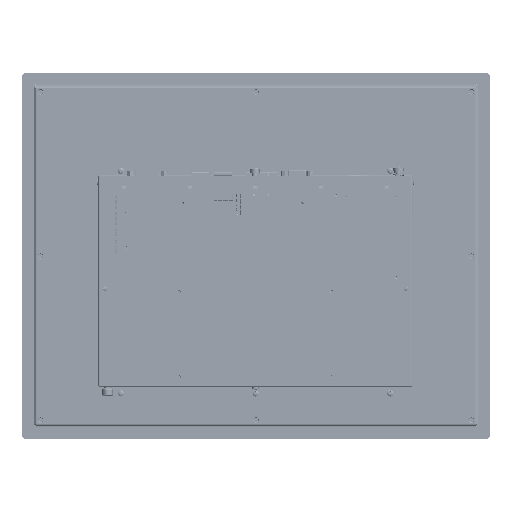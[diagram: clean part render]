
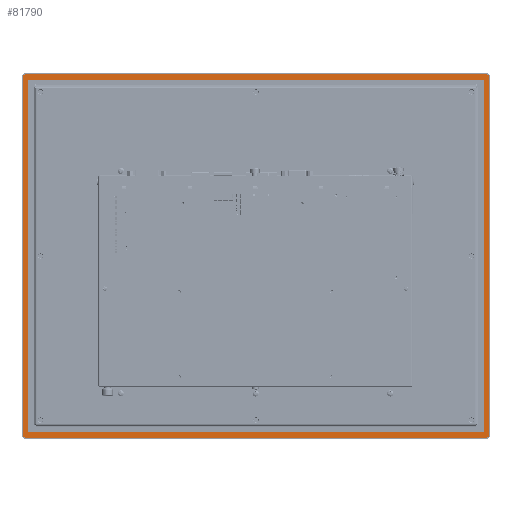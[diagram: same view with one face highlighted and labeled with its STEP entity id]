
A CAD part, front view. The second image highlights one B-rep face of the part: STEP entity #81790.
In plain terms, the highlighted planar face has unit normal (0, -1, 0).
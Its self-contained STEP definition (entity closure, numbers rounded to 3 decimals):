
#202 = VERTEX_POINT ( 'NONE', #469987 ) ;
#5962 = CARTESIAN_POINT ( 'NONE',  ( -224.5, 0.5, -164.5 ) ) ;
#11230 = ORIENTED_EDGE ( 'NONE', *, *, #61647, .F. ) ;
#14660 = CIRCLE ( 'NONE', #641236, 1. ) ;
#18853 = DIRECTION ( 'NONE',  ( 0., 0., 1. ) ) ;
#21385 = DIRECTION ( 'NONE',  ( 0., -1., 0. ) ) ;
#30321 = EDGE_CURVE ( 'NONE', #460075, #148442, #228694, .T. ) ;
#30902 = LINE ( 'NONE', #388912, #261779 ) ;
#36565 = DIRECTION ( 'NONE',  ( 0., 1., 0. ) ) ;
#40188 = CARTESIAN_POINT ( 'NONE',  ( -221.5, 0.5, 180.5 ) ) ;
#45124 = ORIENTED_EDGE ( 'NONE', *, *, #140049, .F. ) ;
#45732 = DIRECTION ( 'NONE',  ( 0., 0., 1. ) ) ;
#55964 = VERTEX_POINT ( 'NONE', #730111 ) ;
#57141 = ORIENTED_EDGE ( 'NONE', *, *, #730697, .F. ) ;
#61647 = EDGE_CURVE ( 'NONE', #538994, #763101, #637773, .T. ) ;
#65102 = EDGE_CURVE ( 'NONE', #107957, #136683, #463092, .T. ) ;
#81790 = ADVANCED_FACE ( 'NONE', ( #594721, #169934 ), #350445, .T. ) ;
#107957 = VERTEX_POINT ( 'NONE', #720496 ) ;
#110672 = CARTESIAN_POINT ( 'NONE',  ( 0., 0.5, 0. ) ) ;
#112410 = DIRECTION ( 'NONE',  ( -1., 0., 0. ) ) ;
#114497 = DIRECTION ( 'NONE',  ( 0., 1., 0. ) ) ;
#125555 = LINE ( 'NONE', #558747, #614832 ) ;
#132472 = CARTESIAN_POINT ( 'NONE',  ( 226.5, 0.5, 184.5 ) ) ;
#136683 = VERTEX_POINT ( 'NONE', #538404 ) ;
#140049 = EDGE_CURVE ( 'NONE', #663506, #546853, #312507, .T. ) ;
#143263 = CARTESIAN_POINT ( 'NONE',  ( -220.5, 0.5, -161.5 ) ) ;
#148442 = VERTEX_POINT ( 'NONE', #40188 ) ;
#150713 = EDGE_CURVE ( 'NONE', #480368, #547571, #14660, .T. ) ;
#163448 = AXIS2_PLACEMENT_3D ( 'NONE', #465052, #287220, #689917 ) ;
#169934 = FACE_OUTER_BOUND ( 'NONE', #400115, .T. ) ;
#172701 = DIRECTION ( 'NONE',  ( 1., 0., 0. ) ) ;
#174076 = DIRECTION ( 'NONE',  ( 0., -1., 0. ) ) ;
#190749 = EDGE_LOOP ( 'NONE', ( #623442, #586694, #230288, #670362, #630325, #531428, #652251, #278994 ) ) ;
#198858 = AXIS2_PLACEMENT_3D ( 'NONE', #224092, #468770, #409543 ) ;
#207458 = CARTESIAN_POINT ( 'NONE',  ( -224.5, 0.5, 186.5 ) ) ;
#215917 = ORIENTED_EDGE ( 'NONE', *, *, #738944, .F. ) ;
#224092 = CARTESIAN_POINT ( 'NONE',  ( 224.5, 0.5, 184.5 ) ) ;
#228694 = CIRCLE ( 'NONE', #626485, 1. ) ;
#229252 = DIRECTION ( 'NONE',  ( 0., -1., 0. ) ) ;
#229941 = EDGE_CURVE ( 'NONE', #546853, #272888, #522098, .T. ) ;
#230288 = ORIENTED_EDGE ( 'NONE', *, *, #318935, .F. ) ;
#231667 = EDGE_CURVE ( 'NONE', #272888, #538994, #30902, .T. ) ;
#233776 = AXIS2_PLACEMENT_3D ( 'NONE', #271260, #36565, #449157 ) ;
#242891 = LINE ( 'NONE', #635696, #658216 ) ;
#255307 = AXIS2_PLACEMENT_3D ( 'NONE', #403570, #174076, #408670 ) ;
#255474 = DIRECTION ( 'NONE',  ( -1., 0., 0. ) ) ;
#261779 = VECTOR ( 'NONE', #45732, 1000. ) ;
#271260 = CARTESIAN_POINT ( 'NONE',  ( -224.5, 0.5, 184.5 ) ) ;
#272888 = VERTEX_POINT ( 'NONE', #589668 ) ;
#278994 = ORIENTED_EDGE ( 'NONE', *, *, #755838, .F. ) ;
#287088 = VECTOR ( 'NONE', #597410, 1000. ) ;
#287220 = DIRECTION ( 'NONE',  ( 0., 1., 0. ) ) ;
#300800 = CARTESIAN_POINT ( 'NONE',  ( 220.5, 0.5, 181.5 ) ) ;
#302183 = EDGE_CURVE ( 'NONE', #136683, #460075, #712132, .T. ) ;
#312507 = LINE ( 'NONE', #544438, #339848 ) ;
#313479 = CARTESIAN_POINT ( 'NONE',  ( -224.5, 0.5, 186.5 ) ) ;
#315579 = VECTOR ( 'NONE', #545086, 1000. ) ;
#316063 = DIRECTION ( 'NONE',  ( 1., 0., 0. ) ) ;
#318935 = EDGE_CURVE ( 'NONE', #148442, #480368, #125555, .T. ) ;
#339848 = VECTOR ( 'NONE', #255474, 1000. ) ;
#347021 = DIRECTION ( 'NONE',  ( 0., -1., 0. ) ) ;
#350445 = PLANE ( 'NONE',  #371531 ) ;
#353165 = DIRECTION ( 'NONE',  ( 0., -1., 0. ) ) ;
#361883 = VERTEX_POINT ( 'NONE', #506961 ) ;
#363331 = CARTESIAN_POINT ( 'NONE',  ( -220.5, 0.5, 181.5 ) ) ;
#367522 = ORIENTED_EDGE ( 'NONE', *, *, #231667, .F. ) ;
#371531 = AXIS2_PLACEMENT_3D ( 'NONE', #110672, #229252, #642087 ) ;
#388912 = CARTESIAN_POINT ( 'NONE',  ( -226.5, 0.5, -164.5 ) ) ;
#392072 = CARTESIAN_POINT ( 'NONE',  ( 221.5, 0.5, -160.5 ) ) ;
#398050 = VECTOR ( 'NONE', #316063, 1000. ) ;
#400115 = EDGE_LOOP ( 'NONE', ( #706960, #57141, #215917, #11230, #367522, #713453, #45124, #441461 ) ) ;
#403570 = CARTESIAN_POINT ( 'NONE',  ( 220.5, 0.5, -160.5 ) ) ;
#408670 = DIRECTION ( 'NONE',  ( 0., 0., -1. ) ) ;
#409543 = DIRECTION ( 'NONE',  ( 0., 0., 1. ) ) ;
#413216 = EDGE_CURVE ( 'NONE', #547571, #361883, #242891, .T. ) ;
#414005 = AXIS2_PLACEMENT_3D ( 'NONE', #5962, #114497, #715397 ) ;
#429585 = VERTEX_POINT ( 'NONE', #392072 ) ;
#441461 = ORIENTED_EDGE ( 'NONE', *, *, #524390, .F. ) ;
#449157 = DIRECTION ( 'NONE',  ( -1., 0., 0. ) ) ;
#460075 = VERTEX_POINT ( 'NONE', #363331 ) ;
#462778 = EDGE_CURVE ( 'NONE', #679077, #202, #759042, .T. ) ;
#463092 = CIRCLE ( 'NONE', #740019, 1. ) ;
#465052 = CARTESIAN_POINT ( 'NONE',  ( 224.5, 0.5, -164.5 ) ) ;
#468770 = DIRECTION ( 'NONE',  ( 0., 1., 0. ) ) ;
#469987 = CARTESIAN_POINT ( 'NONE',  ( 226.5, 0.5, -164.5 ) ) ;
#471962 = LINE ( 'NONE', #313479, #398050 ) ;
#477652 = CARTESIAN_POINT ( 'NONE',  ( -226.5, 0.5, 184.5 ) ) ;
#480368 = VERTEX_POINT ( 'NONE', #501933 ) ;
#482955 = CARTESIAN_POINT ( 'NONE',  ( -224.5, 0.5, -166.5 ) ) ;
#485832 = CIRCLE ( 'NONE', #198858, 2. ) ;
#491947 = CARTESIAN_POINT ( 'NONE',  ( 226.5, 0.5, 184.5 ) ) ;
#501933 = CARTESIAN_POINT ( 'NONE',  ( -221.5, 0.5, -160.5 ) ) ;
#506612 = CIRCLE ( 'NONE', #163448, 2. ) ;
#506961 = CARTESIAN_POINT ( 'NONE',  ( 220.5, 0.5, -161.5 ) ) ;
#509632 = DIRECTION ( 'NONE',  ( 0., 0., -1. ) ) ;
#522098 = CIRCLE ( 'NONE', #414005, 2. ) ;
#524390 = EDGE_CURVE ( 'NONE', #202, #663506, #506612, .T. ) ;
#528776 = LINE ( 'NONE', #752418, #722898 ) ;
#531428 = ORIENTED_EDGE ( 'NONE', *, *, #65102, .F. ) ;
#538404 = CARTESIAN_POINT ( 'NONE',  ( 220.5, 0.5, 181.5 ) ) ;
#538994 = VERTEX_POINT ( 'NONE', #477652 ) ;
#544438 = CARTESIAN_POINT ( 'NONE',  ( 224.5, 0.5, -166.5 ) ) ;
#545086 = DIRECTION ( 'NONE',  ( 0., 0., -1. ) ) ;
#546853 = VERTEX_POINT ( 'NONE', #482955 ) ;
#547571 = VERTEX_POINT ( 'NONE', #143263 ) ;
#558747 = CARTESIAN_POINT ( 'NONE',  ( -221.5, 0.5, 180.5 ) ) ;
#561849 = CIRCLE ( 'NONE', #255307, 1. ) ;
#574342 = DIRECTION ( 'NONE',  ( 0., 0., 1. ) ) ;
#581475 = EDGE_CURVE ( 'NONE', #429585, #107957, #528776, .T. ) ;
#586694 = ORIENTED_EDGE ( 'NONE', *, *, #150713, .F. ) ;
#589668 = CARTESIAN_POINT ( 'NONE',  ( -226.5, 0.5, -164.5 ) ) ;
#594721 = FACE_BOUND ( 'NONE', #190749, .T. ) ;
#597410 = DIRECTION ( 'NONE',  ( -1., 0., 0. ) ) ;
#614832 = VECTOR ( 'NONE', #509632, 1000. ) ;
#619595 = CARTESIAN_POINT ( 'NONE',  ( 224.5, 0.5, -166.5 ) ) ;
#623442 = ORIENTED_EDGE ( 'NONE', *, *, #413216, .F. ) ;
#626485 = AXIS2_PLACEMENT_3D ( 'NONE', #674038, #21385, #18853 ) ;
#630325 = ORIENTED_EDGE ( 'NONE', *, *, #302183, .F. ) ;
#635696 = CARTESIAN_POINT ( 'NONE',  ( -220.5, 0.5, -161.5 ) ) ;
#637773 = CIRCLE ( 'NONE', #233776, 2. ) ;
#641236 = AXIS2_PLACEMENT_3D ( 'NONE', #641256, #347021, #112410 ) ;
#641256 = CARTESIAN_POINT ( 'NONE',  ( -220.5, 0.5, -160.5 ) ) ;
#642087 = DIRECTION ( 'NONE',  ( -1., 0., 0. ) ) ;
#652251 = ORIENTED_EDGE ( 'NONE', *, *, #581475, .F. ) ;
#658216 = VECTOR ( 'NONE', #759432, 1000. ) ;
#663506 = VERTEX_POINT ( 'NONE', #619595 ) ;
#670362 = ORIENTED_EDGE ( 'NONE', *, *, #30321, .F. ) ;
#674038 = CARTESIAN_POINT ( 'NONE',  ( -220.5, 0.5, 180.5 ) ) ;
#679077 = VERTEX_POINT ( 'NONE', #491947 ) ;
#689917 = DIRECTION ( 'NONE',  ( 1., 0., 0. ) ) ;
#706672 = CARTESIAN_POINT ( 'NONE',  ( 220.5, 0.5, 180.5 ) ) ;
#706960 = ORIENTED_EDGE ( 'NONE', *, *, #462778, .F. ) ;
#712132 = LINE ( 'NONE', #300800, #287088 ) ;
#713453 = ORIENTED_EDGE ( 'NONE', *, *, #229941, .F. ) ;
#715397 = DIRECTION ( 'NONE',  ( 0., 0., -1. ) ) ;
#720496 = CARTESIAN_POINT ( 'NONE',  ( 221.5, 0.5, 180.5 ) ) ;
#722898 = VECTOR ( 'NONE', #574342, 1000. ) ;
#730111 = CARTESIAN_POINT ( 'NONE',  ( 224.5, 0.5, 186.5 ) ) ;
#730697 = EDGE_CURVE ( 'NONE', #55964, #679077, #485832, .T. ) ;
#738944 = EDGE_CURVE ( 'NONE', #763101, #55964, #471962, .T. ) ;
#740019 = AXIS2_PLACEMENT_3D ( 'NONE', #706672, #353165, #172701 ) ;
#752418 = CARTESIAN_POINT ( 'NONE',  ( 221.5, 0.5, -160.5 ) ) ;
#755838 = EDGE_CURVE ( 'NONE', #361883, #429585, #561849, .T. ) ;
#759042 = LINE ( 'NONE', #132472, #315579 ) ;
#759432 = DIRECTION ( 'NONE',  ( 1., 0., 0. ) ) ;
#763101 = VERTEX_POINT ( 'NONE', #207458 ) ;
